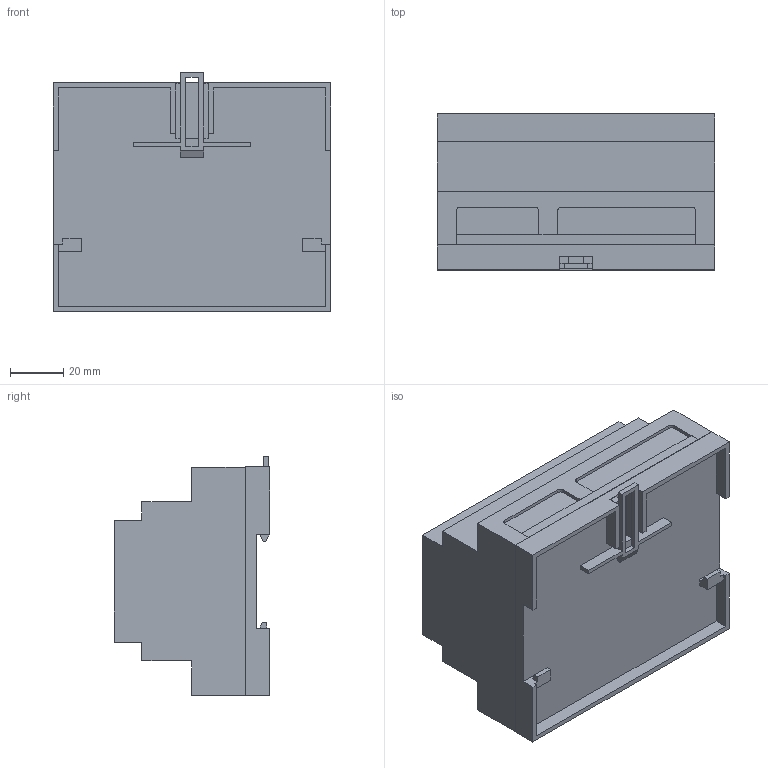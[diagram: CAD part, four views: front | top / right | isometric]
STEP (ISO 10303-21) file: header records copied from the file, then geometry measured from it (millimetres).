
FILE_DESCRIPTION((''),'2;1');
FILE_NAME('J:\WIP\Magpowr WEB\3D (Models)\Tension Controls\DIN Mount Tension Control\DFC-A\DFC-A.stp','2013-09-30T13:54:06',('lzuniga'),(''),'Autodesk Inventor 2013','Autodesk Inventor 2013','');
FILE_SCHEMA(('AUTOMOTIVE_DESIGN { 1 0 10303 214 1 1 1 1 }'));
Length unit declared in the file: inch
Products named in the file (1): DFC-A
Bounding box: 104.14 x 58.42 x 89.66 mm (x, y, z)
Volume: 124384.6 mm3; surface area: 70089.5 mm2
Topology: 1 solids, 1 shells, 402 faces, 1092 edges, 725 vertices
Faces by surface type: plane 307, bspline 79, cylinder 16
Entity records: 13244 total; most frequent: CARTESIAN_POINT 3484, ORIENTED_EDGE 2184, DIRECTION 1614, EDGE_CURVE 1092, VECTOR 902, LINE 902, VERTEX_POINT 725, EDGE_LOOP 441
